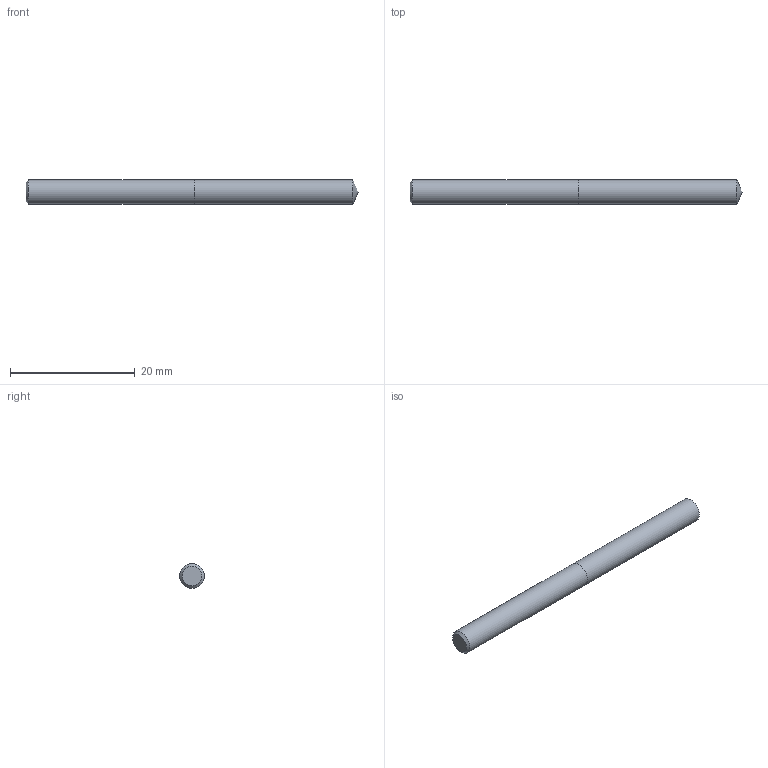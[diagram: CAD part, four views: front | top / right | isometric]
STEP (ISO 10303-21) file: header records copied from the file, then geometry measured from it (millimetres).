
FILE_DESCRIPTION (( 'STEP AP214' ), '1' );
FILE_NAME ('03-2365.STEP', '2022-06-03T06:47:10', ( 'USER' ), ( '' ), 'SwSTEP 2.0', 'SolidWorks 2018', '' );
FILE_SCHEMA (( 'AUTOMOTIVE_DESIGN' ));
Length unit declared in the file: inch
Products named in the file (1): 03-2365
Bounding box: 53.2 x 3.91 x 3.91 mm (x, y, z)
Volume: 631.9 mm3; surface area: 689.8 mm2
Topology: 2 solids, 2 shells, 7 faces, 11 edges, 7 vertices
Faces by surface type: plane 3, cylinder 2, cone 2
Full cylindrical faces by diameter (mm): 3.912 x2
Entity records: 214 total; most frequent: DIRECTION 26, CARTESIAN_POINT 18, AXIS2_PLACEMENT_3D 13, EDGE_LOOP 10, ORIENTED_EDGE 10, FACE_OUTER_BOUND 9, DIMENSIONAL_EXPONENTS 7, UNCERTAINTY_MEASURE_WITH_UNIT 7
